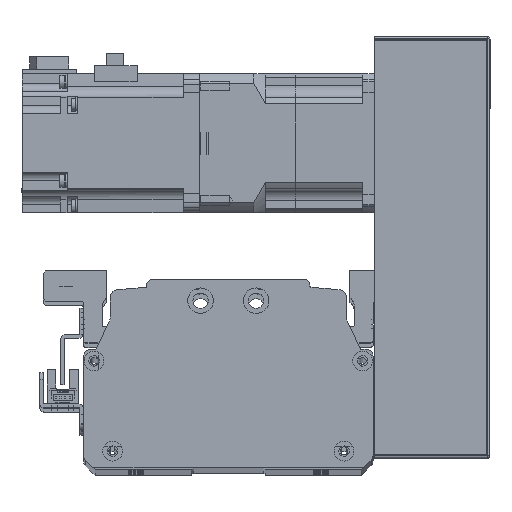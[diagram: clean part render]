
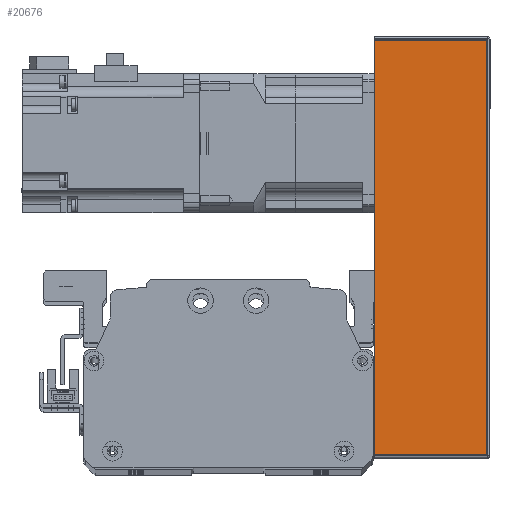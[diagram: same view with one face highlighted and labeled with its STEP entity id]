
A CAD part, top view. The second image highlights one B-rep face of the part: STEP entity #20676.
In plain terms, the highlighted planar face has unit normal (0, 0, 1) as drawn and (0, -1, 0) by its records, which use the part's own axes.
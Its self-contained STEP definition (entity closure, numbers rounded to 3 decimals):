
#563=PLANE('',#22695);
#1778=LINE('',#33720,#3402);
#1792=LINE('',#33772,#3416);
#1794=LINE('',#33780,#3418);
#1795=LINE('',#33782,#3419);
#3402=VECTOR('',#27409,10.);
#3416=VECTOR('',#27469,10.);
#3418=VECTOR('',#27483,10.);
#3419=VECTOR('',#27486,10.);
#5820=FACE_OUTER_BOUND('',#7300,.T.);
#7300=EDGE_LOOP('',(#17188,#17189,#17190,#17191));
#10192=VERTEX_POINT('',#33717);
#10193=VERTEX_POINT('',#33719);
#10207=VERTEX_POINT('',#33767);
#10208=VERTEX_POINT('',#33770);
#12648=EDGE_CURVE('',#10193,#10192,#1778,.T.);
#12676=EDGE_CURVE('',#10207,#10208,#1792,.T.);
#12680=EDGE_CURVE('',#10208,#10193,#1794,.T.);
#12681=EDGE_CURVE('',#10192,#10207,#1795,.T.);
#17188=ORIENTED_EDGE('',*,*,#12676,.T.);
#17189=ORIENTED_EDGE('',*,*,#12680,.T.);
#17190=ORIENTED_EDGE('',*,*,#12648,.T.);
#17191=ORIENTED_EDGE('',*,*,#12681,.T.);
#20676=ADVANCED_FACE('',(#5820),#563,.F.);
#22695=AXIS2_PLACEMENT_3D('',#33781,#27484,#27485);
#27409=DIRECTION('',(1.,0.,0.));
#27469=DIRECTION('',(-1.,0.,0.));
#27483=DIRECTION('',(0.,0.,-1.));
#27484=DIRECTION('center_axis',(0.,1.,0.));
#27485=DIRECTION('ref_axis',(1.,0.,0.));
#27486=DIRECTION('',(0.,0.,1.));
#33717=CARTESIAN_POINT('',(90.,-38.,-25.));
#33719=CARTESIAN_POINT('',(-90.,-38.,-25.));
#33720=CARTESIAN_POINT('',(91.,-38.,-25.));
#33767=CARTESIAN_POINT('',(90.,-38.,24.));
#33770=CARTESIAN_POINT('',(-90.,-38.,24.));
#33772=CARTESIAN_POINT('',(-45.5,-38.,24.));
#33780=CARTESIAN_POINT('',(-90.,-38.,0.));
#33781=CARTESIAN_POINT('Origin',(-91.,-38.,0.));
#33782=CARTESIAN_POINT('',(90.,-38.,0.));
